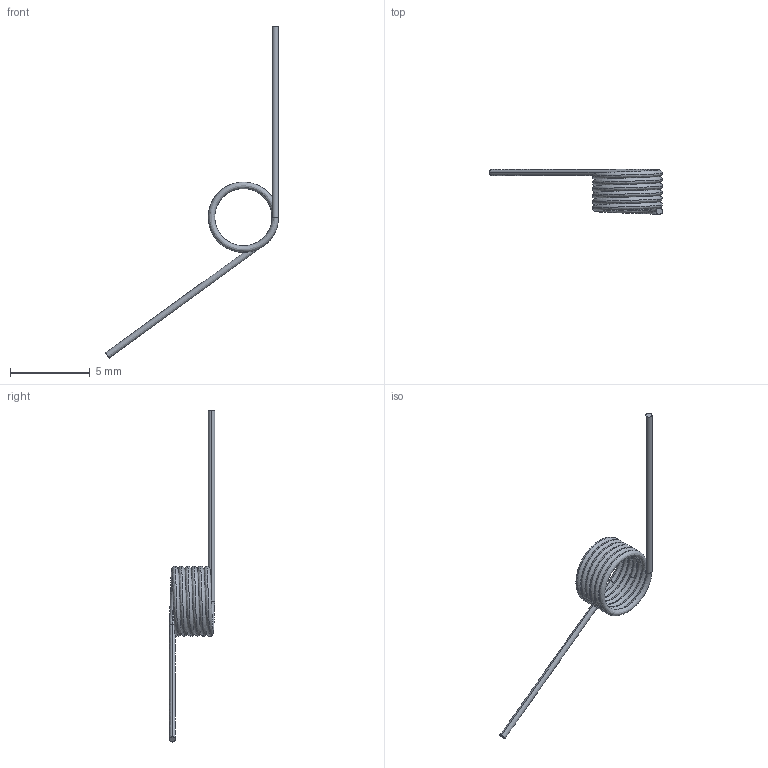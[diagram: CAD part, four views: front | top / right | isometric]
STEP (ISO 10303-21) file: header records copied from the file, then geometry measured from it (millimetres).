
FILE_DESCRIPTION((''),'2;1');
FILE_NAME('PRT0001','2024-02-22T10:21:27',('qinghui.yi'),(''),'CREO PARAMETRIC BY PTC INC, 2019164','CREO PARAMETRIC BY PTC INC, 2019164','');
FILE_SCHEMA(('CONFIG_CONTROL_DESIGN','SHAPE_APPEARANCE_LAYERS_GROUPS'));
Length unit declared in the file: millimetre
Products named in the file (1): PRT0001
Bounding box: 10.85 x 2.86 x 20.83 mm (x, y, z)
Volume: 12.4 mm3; surface area: 125.9 mm2
Topology: 1 solids, 1 shells, 10 faces, 24 edges, 20 vertices
Faces by surface type: bspline 4, cylinder 2, extrusion 2, plane 2
Entity records: 2043 total; most frequent: CARTESIAN_POINT 1451, COLOUR_RGB 312, ORIENTED_EDGE 36, DIRECTION 32, EDGE_CURVE 18, B_SPLINE_CURVE_WITH_KNOTS 12, AXIS2_PLACEMENT_3D 11, VECTOR 10
